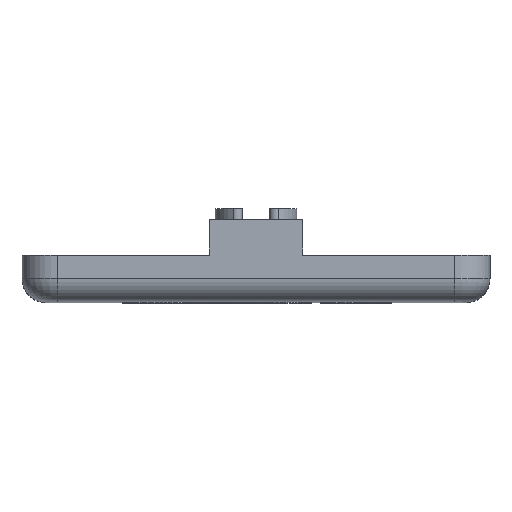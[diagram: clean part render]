
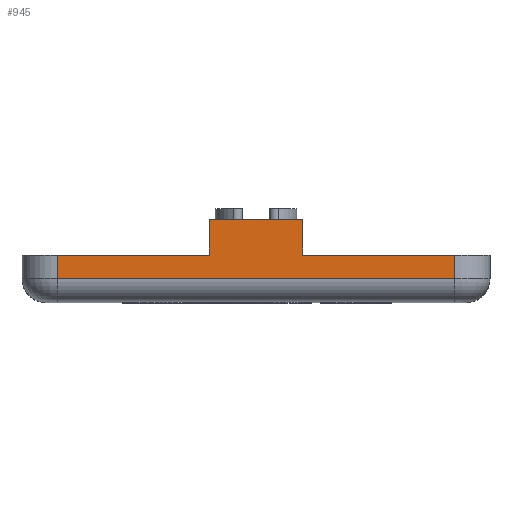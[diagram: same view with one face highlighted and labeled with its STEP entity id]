
A CAD part, top view. The second image highlights one B-rep face of the part: STEP entity #945.
In plain terms, the highlighted planar face has unit normal (0, 0, 1).
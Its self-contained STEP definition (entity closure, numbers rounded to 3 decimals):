
#101 = VERTEX_POINT ( 'NONE', #3949 ) ;
#154 = EDGE_CURVE ( 'NONE', #4717, #2540, #2299, .T. ) ;
#449 = LINE ( 'NONE', #7490, #6282 ) ;
#496 = EDGE_CURVE ( 'NONE', #1052, #4717, #449, .T. ) ;
#698 = VECTOR ( 'NONE', #1934, 1000. ) ;
#945 = ADVANCED_FACE ( 'NONE', ( #6003 ), #3289, .F. ) ;
#990 = DIRECTION ( 'NONE',  ( 0., -1., 0. ) ) ;
#1008 = LINE ( 'NONE', #3097, #4023 ) ;
#1052 = VERTEX_POINT ( 'NONE', #7486 ) ;
#1310 = ORIENTED_EDGE ( 'NONE', *, *, #7419, .T. ) ;
#1328 = DIRECTION ( 'NONE',  ( 0., -1., 0. ) ) ;
#1524 = CARTESIAN_POINT ( 'NONE',  ( 17., 4., 20. ) ) ;
#1624 = DIRECTION ( 'NONE',  ( -1., 0., 0. ) ) ;
#1759 = LINE ( 'NONE', #1524, #4775 ) ;
#1767 = LINE ( 'NONE', #2655, #3174 ) ;
#1885 = CARTESIAN_POINT ( 'NONE',  ( -17., 4., 20. ) ) ;
#1934 = DIRECTION ( 'NONE',  ( 0., -1., 0. ) ) ;
#1952 = DIRECTION ( 'NONE',  ( 0., -1., 0. ) ) ;
#2114 = VECTOR ( 'NONE', #2767, 1000. ) ;
#2182 = CARTESIAN_POINT ( 'NONE',  ( -4., 4., 20. ) ) ;
#2299 = LINE ( 'NONE', #7276, #698 ) ;
#2385 = EDGE_CURVE ( 'NONE', #101, #3502, #1767, .T. ) ;
#2540 = VERTEX_POINT ( 'NONE', #5169 ) ;
#2578 = DIRECTION ( 'NONE',  ( 1., 0., 0. ) ) ;
#2584 = VERTEX_POINT ( 'NONE', #2182 ) ;
#2645 = VERTEX_POINT ( 'NONE', #3455 ) ;
#2655 = CARTESIAN_POINT ( 'NONE',  ( -17., 4., 20. ) ) ;
#2732 = ORIENTED_EDGE ( 'NONE', *, *, #2385, .T. ) ;
#2767 = DIRECTION ( 'NONE',  ( 1., 0., 0. ) ) ;
#2843 = CARTESIAN_POINT ( 'NONE',  ( 4., 7., 20. ) ) ;
#2889 = ORIENTED_EDGE ( 'NONE', *, *, #7329, .T. ) ;
#3097 = CARTESIAN_POINT ( 'NONE',  ( -4., 7., 20. ) ) ;
#3174 = VECTOR ( 'NONE', #1328, 1000. ) ;
#3289 = PLANE ( 'NONE',  #3513 ) ;
#3455 = CARTESIAN_POINT ( 'NONE',  ( 17., 2., 20. ) ) ;
#3502 = VERTEX_POINT ( 'NONE', #6780 ) ;
#3513 = AXIS2_PLACEMENT_3D ( 'NONE', #3893, #5278, #1624 ) ;
#3668 = EDGE_CURVE ( 'NONE', #101, #2584, #6921, .T. ) ;
#3805 = CARTESIAN_POINT ( 'NONE',  ( -17., 2., 20. ) ) ;
#3893 = CARTESIAN_POINT ( 'NONE',  ( -17., 4., 20. ) ) ;
#3949 = CARTESIAN_POINT ( 'NONE',  ( -17., 4., 20. ) ) ;
#3986 = CARTESIAN_POINT ( 'NONE',  ( -17., 4., 20. ) ) ;
#4023 = VECTOR ( 'NONE', #1952, 1000. ) ;
#4121 = LINE ( 'NONE', #3805, #5719 ) ;
#4410 = VECTOR ( 'NONE', #2578, 1000. ) ;
#4717 = VERTEX_POINT ( 'NONE', #2843 ) ;
#4775 = VECTOR ( 'NONE', #990, 1000. ) ;
#5169 = CARTESIAN_POINT ( 'NONE',  ( 4., 4., 20. ) ) ;
#5278 = DIRECTION ( 'NONE',  ( 0., 0., -1. ) ) ;
#5705 = ORIENTED_EDGE ( 'NONE', *, *, #496, .F. ) ;
#5707 = VERTEX_POINT ( 'NONE', #6070 ) ;
#5710 = DIRECTION ( 'NONE',  ( 1., 0., 0. ) ) ;
#5719 = VECTOR ( 'NONE', #5710, 1000. ) ;
#5774 = EDGE_CURVE ( 'NONE', #2540, #5707, #7406, .T. ) ;
#5799 = EDGE_LOOP ( 'NONE', ( #2732, #1310, #6382, #7465, #5942, #5705, #2889, #7331 ) ) ;
#5883 = DIRECTION ( 'NONE',  ( 1., 0., 0. ) ) ;
#5942 = ORIENTED_EDGE ( 'NONE', *, *, #154, .F. ) ;
#6003 = FACE_OUTER_BOUND ( 'NONE', #5799, .T. ) ;
#6070 = CARTESIAN_POINT ( 'NONE',  ( 17., 4., 20. ) ) ;
#6282 = VECTOR ( 'NONE', #5883, 1000. ) ;
#6382 = ORIENTED_EDGE ( 'NONE', *, *, #7489, .F. ) ;
#6780 = CARTESIAN_POINT ( 'NONE',  ( -17., 2., 20. ) ) ;
#6921 = LINE ( 'NONE', #3986, #2114 ) ;
#7276 = CARTESIAN_POINT ( 'NONE',  ( 4., 7., 20. ) ) ;
#7329 = EDGE_CURVE ( 'NONE', #1052, #2584, #1008, .T. ) ;
#7331 = ORIENTED_EDGE ( 'NONE', *, *, #3668, .F. ) ;
#7406 = LINE ( 'NONE', #1885, #4410 ) ;
#7419 = EDGE_CURVE ( 'NONE', #3502, #2645, #4121, .T. ) ;
#7465 = ORIENTED_EDGE ( 'NONE', *, *, #5774, .F. ) ;
#7486 = CARTESIAN_POINT ( 'NONE',  ( -4., 7., 20. ) ) ;
#7489 = EDGE_CURVE ( 'NONE', #5707, #2645, #1759, .T. ) ;
#7490 = CARTESIAN_POINT ( 'NONE',  ( -4., 7., 20. ) ) ;
